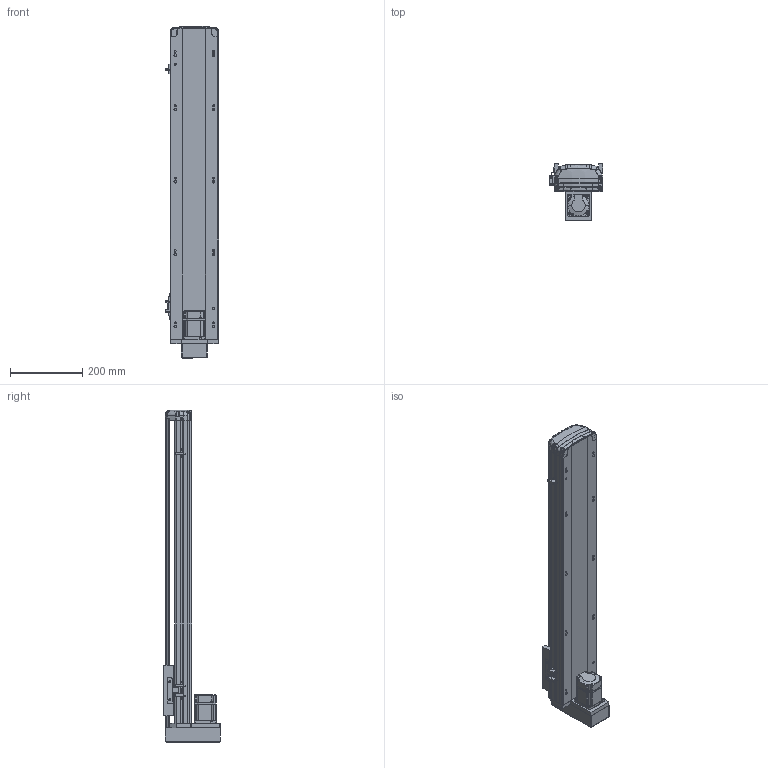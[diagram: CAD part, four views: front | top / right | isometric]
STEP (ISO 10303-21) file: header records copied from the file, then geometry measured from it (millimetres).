
FILE_DESCRIPTION (( 'STEP AP214' ), '1' );
FILE_NAME ('RTH14-XX-650-M-M20-C4.STEP', '2025-10-25T02:50:12', ( 'Microsoft' ), ( 'Microsoft' ), 'SwSTEP 2.0', 'SolidWorks 2018', '' );
FILE_SCHEMA (( 'AUTOMOTIVE_DESIGN' ));
Length unit declared in the file: millimetre
Products named in the file (10): N_RTH13-M-018裔赽^RTH14-XX-XX-M-M20-C4; N_RTH14-R-004-SFSR16賑釱^RTH14-XX-XX-M-M20-C4; N_RTH13-L-012感应片（外置）^RTH14-XX-XX-M-M20-C4; RTH14-XX-650-M-M20-C4; N_MSMD022P1AA_200W^RTH14-XX-XX-M-M20-C4; N_RTH14-M-007P奻裔^RTH14-XX-XX-M-M20-C4; N_RTH14-M-011P菁釱^RTH14-XX-XX-M-M20-C4; N_RTH13-M-008萇儂啣狟殏^RTH14-XX-XX-M-M20-C4; N_OMRON EE-SX672 传感器^RTH14-XX-XX-M-M20-C4; N_RTH14-GY-001P^RTH14-XX-XX-M-M20-C4
Assembly tree (11 placements, depth 2):
  RTH14-XX-650-M-M20-C4
    N_RTH14-M-011P菁釱^RTH14-XX-XX-M-M20-C4
    N_RTH14-M-007P奻裔^RTH14-XX-XX-M-M20-C4
    N_MSMD022P1AA_200W^RTH14-XX-XX-M-M20-C4
    N_RTH13-M-008萇儂啣狟殏^RTH14-XX-XX-M-M20-C4
    N_RTH13-M-018裔赽^RTH14-XX-XX-M-M20-C4
    N_RTH13-L-012感应片（外置）^RTH14-XX-XX-M-M20-C4
    N_OMRON EE-SX672 传感器^RTH14-XX-XX-M-M20-C4  x3
    N_RTH14-R-004-SFSR16賑釱^RTH14-XX-XX-M-M20-C4
    N_RTH14-GY-001P^RTH14-XX-XX-M-M20-C4
Bounding box: 148.5 x 156.5 x 917.37 mm (x, y, z)
Volume: 4107761.8 mm3; surface area: 946682.7 mm2
Topology: 11 solids, 11 shells, 1875 faces, 5240 edges, 3432 vertices
Faces by surface type: plane 995, cylinder 486, bspline 345, cone 45, torus 4
Entity records: 57214 total; most frequent: CARTESIAN_POINT 23039, ORIENTED_EDGE 7548, DIRECTION 6055, EDGE_CURVE 3774, VERTEX_POINT 2468, LINE 2173, VECTOR 2173, AXIS2_PLACEMENT_3D 1941
